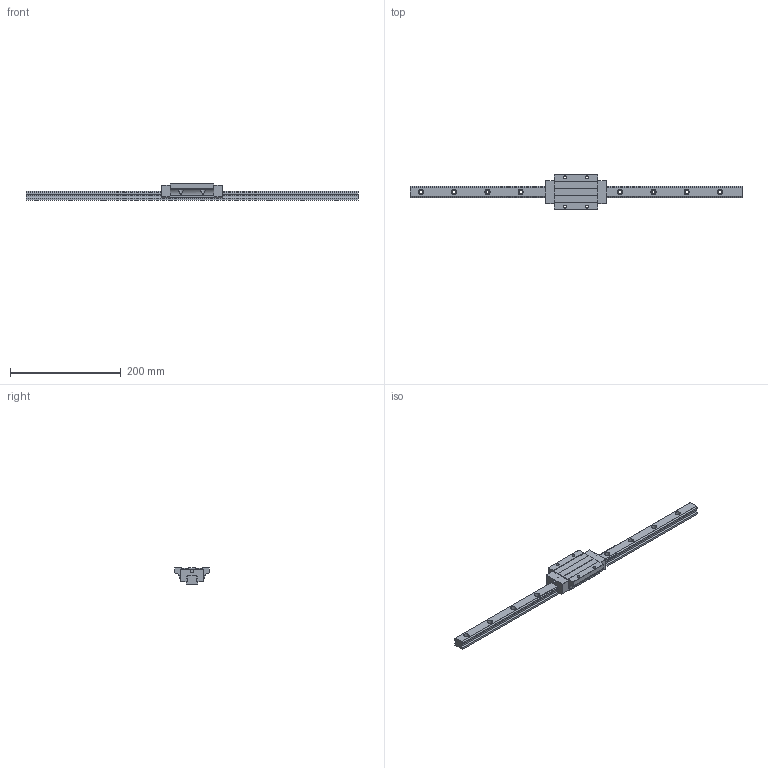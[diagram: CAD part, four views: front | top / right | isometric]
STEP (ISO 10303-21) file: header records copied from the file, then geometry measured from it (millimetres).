
FILE_DESCRIPTION (( 'STEP AP203' ), '1' );
FILE_NAME ('TRH20FE-WW.STEP', '2024-05-07T07:51:54', ( '' ), ( '' ), 'SwSTEP 2.0', 'SolidWorks 2022', '' );
FILE_SCHEMA (( 'CONFIG_CONTROL_DESIGN' ));
Length unit declared in the file: millimetre
Products named in the file (1): TRH20FE-WW
Bounding box: 600 x 63 x 30 mm (x, y, z)
Volume: 273134.9 mm3; surface area: 72820.7 mm2
Topology: 2 solids, 2 shells, 210 faces, 574 edges, 376 vertices
Faces by surface type: cylinder 118, plane 88, sphere 4
Entity records: 7409 total; most frequent: CARTESIAN_POINT 1819, DIRECTION 1178, ORIENTED_EDGE 1140, EDGE_CURVE 570, AXIS2_PLACEMENT_3D 423, VERTEX_POINT 376, VECTOR 332, LINE 332
